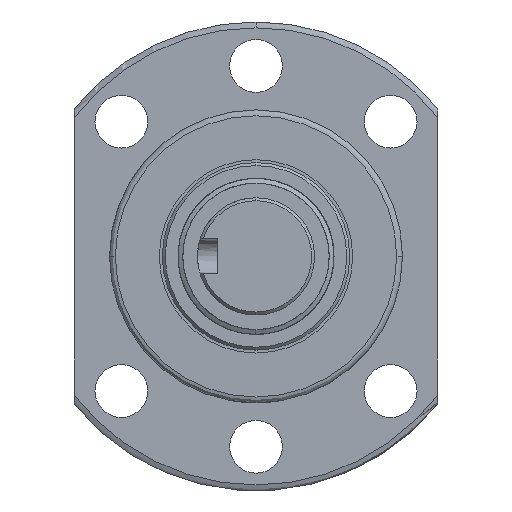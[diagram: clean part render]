
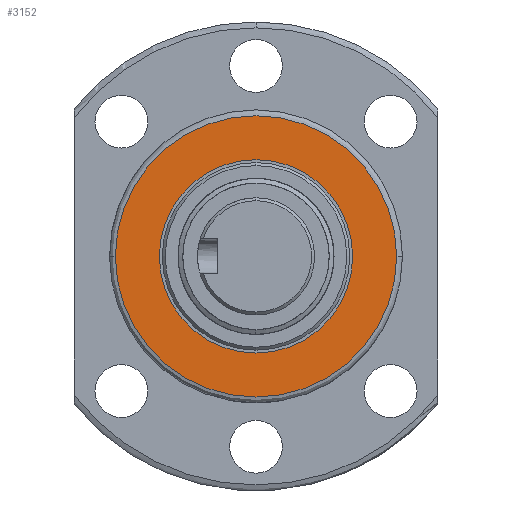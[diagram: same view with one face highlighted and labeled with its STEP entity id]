
A CAD part, left-side view. The second image highlights one B-rep face of the part: STEP entity #3152.
In plain terms, the highlighted planar face has unit normal (-1, 0, 0).
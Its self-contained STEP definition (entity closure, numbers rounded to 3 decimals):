
#1587 = DIRECTION ( 'NONE',  ( 0., 0., 1. ) ) ;
#1629 = CARTESIAN_POINT ( 'NONE',  ( -67., 24., 0. ) ) ;
#1843 = PLANE ( 'NONE',  #4191 ) ;
#2655 = AXIS2_PLACEMENT_3D ( 'NONE', #10586, #10764, #9503 ) ;
#2725 = VERTEX_POINT ( 'NONE', #10431 ) ;
#3094 = FACE_BOUND ( 'NONE', #7917, .T. ) ;
#3152 = ADVANCED_FACE ( 'NONE', ( #3094, #8234 ), #1843, .F. ) ;
#3206 = EDGE_CURVE ( 'NONE', #7224, #3653, #3397, .T. ) ;
#3251 = ORIENTED_EDGE ( 'NONE', *, *, #9376, .F. ) ;
#3397 = CIRCLE ( 'NONE', #5518, 16.5 ) ;
#3653 = VERTEX_POINT ( 'NONE', #5664 ) ;
#3710 = EDGE_CURVE ( 'NONE', #3653, #7224, #10904, .T. ) ;
#4191 = AXIS2_PLACEMENT_3D ( 'NONE', #6950, #12075, #4601 ) ;
#4287 = ORIENTED_EDGE ( 'NONE', *, *, #3206, .F. ) ;
#4544 = AXIS2_PLACEMENT_3D ( 'NONE', #15987, #5590, #1587 ) ;
#4601 = DIRECTION ( 'NONE',  ( 0., 1., 0. ) ) ;
#5518 = AXIS2_PLACEMENT_3D ( 'NONE', #6107, #13747, #14753 ) ;
#5590 = DIRECTION ( 'NONE',  ( 1., 0., 0. ) ) ;
#5664 = CARTESIAN_POINT ( 'NONE',  ( -67., 0., -16.5 ) ) ;
#6107 = CARTESIAN_POINT ( 'NONE',  ( -67., 0., 0. ) ) ;
#6404 = ORIENTED_EDGE ( 'NONE', *, *, #3710, .F. ) ;
#6950 = CARTESIAN_POINT ( 'NONE',  ( -67., 21.5, 0. ) ) ;
#7224 = VERTEX_POINT ( 'NONE', #10039 ) ;
#7452 = VERTEX_POINT ( 'NONE', #1629 ) ;
#7917 = EDGE_LOOP ( 'NONE', ( #4287, #6404 ) ) ;
#7948 = DIRECTION ( 'NONE',  ( 0., 0., 1. ) ) ;
#8234 = FACE_OUTER_BOUND ( 'NONE', #12747, .T. ) ;
#8504 = AXIS2_PLACEMENT_3D ( 'NONE', #11967, #14319, #7948 ) ;
#9376 = EDGE_CURVE ( 'NONE', #7452, #2725, #12579, .T. ) ;
#9503 = DIRECTION ( 'NONE',  ( 0., 0., 1. ) ) ;
#10034 = ORIENTED_EDGE ( 'NONE', *, *, #13157, .F. ) ;
#10039 = CARTESIAN_POINT ( 'NONE',  ( -67., 0., 16.5 ) ) ;
#10431 = CARTESIAN_POINT ( 'NONE',  ( -67., -24., 0. ) ) ;
#10586 = CARTESIAN_POINT ( 'NONE',  ( -67., 0., 0. ) ) ;
#10764 = DIRECTION ( 'NONE',  ( 1., 0., 0. ) ) ;
#10904 = CIRCLE ( 'NONE', #8504, 16.5 ) ;
#11779 = CIRCLE ( 'NONE', #4544, 24. ) ;
#11967 = CARTESIAN_POINT ( 'NONE',  ( -67., 0., 0. ) ) ;
#12075 = DIRECTION ( 'NONE',  ( 1., 0., 0. ) ) ;
#12579 = CIRCLE ( 'NONE', #2655, 24. ) ;
#12747 = EDGE_LOOP ( 'NONE', ( #3251, #10034 ) ) ;
#13157 = EDGE_CURVE ( 'NONE', #2725, #7452, #11779, .T. ) ;
#13747 = DIRECTION ( 'NONE',  ( -1., 0., 0. ) ) ;
#14319 = DIRECTION ( 'NONE',  ( -1., 0., 0. ) ) ;
#14753 = DIRECTION ( 'NONE',  ( 0., 0., 1. ) ) ;
#15987 = CARTESIAN_POINT ( 'NONE',  ( -67., 0., 0. ) ) ;
